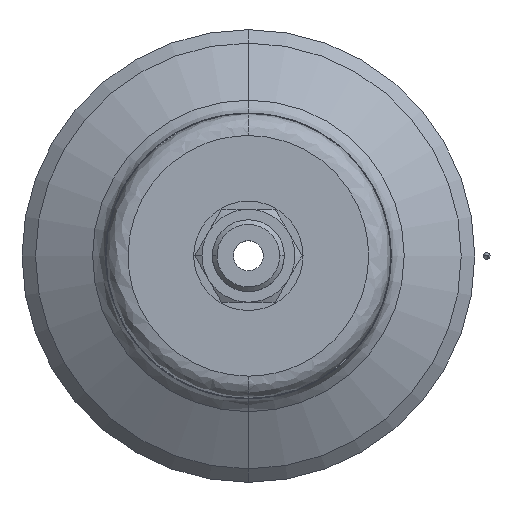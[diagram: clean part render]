
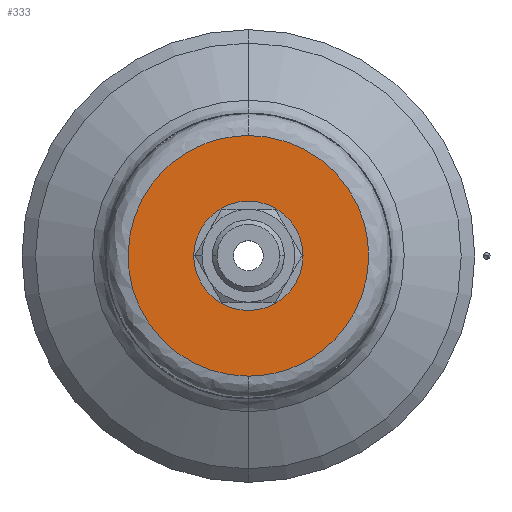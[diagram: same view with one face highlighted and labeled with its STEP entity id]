
A CAD part, top view. The second image highlights one B-rep face of the part: STEP entity #333.
In plain terms, the highlighted planar face has unit normal (0, 0, 1).
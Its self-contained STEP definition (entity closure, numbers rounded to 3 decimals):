
#94 = CARTESIAN_POINT ( 'NONE',  ( 0., 10., 18. ) ) ;
#113 = AXIS2_PLACEMENT_3D ( 'NONE', #761, #766, #768 ) ;
#114 = EDGE_LOOP ( 'NONE', ( #1543, #1371 ) ) ;
#164 = VERTEX_POINT ( 'NONE', #1126 ) ;
#253 = VERTEX_POINT ( 'NONE', #1719 ) ;
#289 = ORIENTED_EDGE ( 'NONE', *, *, #2342, .F. ) ;
#323 = DIRECTION ( 'NONE',  ( 0., 0., -1. ) ) ;
#333 = ADVANCED_FACE ( 'NONE', ( #1177, #1075 ), #1722, .T. ) ;
#501 = VERTEX_POINT ( 'NONE', #2402 ) ;
#635 = ORIENTED_EDGE ( 'NONE', *, *, #2151, .F. ) ;
#706 = CIRCLE ( 'NONE', #113, 10. ) ;
#720 = CARTESIAN_POINT ( 'NONE',  ( 0., -22.004, 18. ) ) ;
#752 = AXIS2_PLACEMENT_3D ( 'NONE', #1601, #1593, #1635 ) ;
#761 = CARTESIAN_POINT ( 'NONE',  ( 0., 0., 18. ) ) ;
#766 = DIRECTION ( 'NONE',  ( 0., 0., -1. ) ) ;
#768 = DIRECTION ( 'NONE',  ( 0., -1., 0. ) ) ;
#922 = CARTESIAN_POINT ( 'NONE',  ( -44.008, 22.004, 18. ) ) ;
#975 = EDGE_LOOP ( 'NONE', ( #289, #635 ) ) ;
#1060 = CARTESIAN_POINT ( 'NONE',  ( 0., -22.004, 18. ) ) ;
#1075 = FACE_OUTER_BOUND ( 'NONE', #975, .T. ) ;
#1126 = CARTESIAN_POINT ( 'NONE',  ( 0., -22.004, 18. ) ) ;
#1144 = CARTESIAN_POINT ( 'NONE',  ( 0., 22.004, 18. ) ) ;
#1149 = VERTEX_POINT ( 'NONE', #94 ) ;
#1155 = DIRECTION ( 'NONE',  ( 0., -1., 0. ) ) ;
#1177 = FACE_BOUND ( 'NONE', #114, .T. ) ;
#1197 = CARTESIAN_POINT ( 'NONE',  ( 0., 22.004, 18. ) ) ;
#1348 = CARTESIAN_POINT ( 'NONE',  ( 44.008, -22.004, 18. ) ) ;
#1371 = ORIENTED_EDGE ( 'NONE', *, *, #1431, .T. ) ;
#1431 = EDGE_CURVE ( 'NONE', #1149, #501, #706, .T. ) ;
#1543 = ORIENTED_EDGE ( 'NONE', *, *, #2144, .T. ) ;
#1593 = DIRECTION ( 'NONE',  ( 0., 0., 1. ) ) ;
#1601 = CARTESIAN_POINT ( 'NONE',  ( 14.127, 0., 18. ) ) ;
#1635 = DIRECTION ( 'NONE',  ( 0., -1., 0. ) ) ;
#1719 = CARTESIAN_POINT ( 'NONE',  ( 0., 22.004, 18. ) ) ;
#1722 = PLANE ( 'NONE',  #752 ) ;
#1761 =( BOUNDED_CURVE ( )  B_SPLINE_CURVE ( 3, ( #1197, #1786, #1348, #1060 ),
 .UNSPECIFIED., .F., .F. ) 
 B_SPLINE_CURVE_WITH_KNOTS ( ( 4, 4 ),
 ( 0., 1. ),
 .UNSPECIFIED. ) 
 CURVE ( )  GEOMETRIC_REPRESENTATION_ITEM ( )  RATIONAL_B_SPLINE_CURVE ( ( 1., 0.333, 0.333, 1. ) ) 
 REPRESENTATION_ITEM ( '' )  );
#1786 = CARTESIAN_POINT ( 'NONE',  ( 44.008, 22.004, 18. ) ) ;
#2144 = EDGE_CURVE ( 'NONE', #501, #1149, #2341, .T. ) ;
#2151 = EDGE_CURVE ( 'NONE', #164, #253, #2507, .T. ) ;
#2301 = CARTESIAN_POINT ( 'NONE',  ( 0., 0., 18. ) ) ;
#2341 = CIRCLE ( 'NONE', #2534, 10. ) ;
#2342 = EDGE_CURVE ( 'NONE', #253, #164, #1761, .T. ) ;
#2402 = CARTESIAN_POINT ( 'NONE',  ( 0., -10., 18. ) ) ;
#2507 =( BOUNDED_CURVE ( )  B_SPLINE_CURVE ( 3, ( #720, #2688, #922, #1144 ),
 .UNSPECIFIED., .F., .T. ) 
 B_SPLINE_CURVE_WITH_KNOTS ( ( 4, 4 ),
 ( 0., 1. ),
 .UNSPECIFIED. ) 
 CURVE ( )  GEOMETRIC_REPRESENTATION_ITEM ( )  RATIONAL_B_SPLINE_CURVE ( ( 1., 0.333, 0.333, 1. ) ) 
 REPRESENTATION_ITEM ( '' )  );
#2534 = AXIS2_PLACEMENT_3D ( 'NONE', #2301, #323, #1155 ) ;
#2688 = CARTESIAN_POINT ( 'NONE',  ( -44.008, -22.004, 18. ) ) ;
